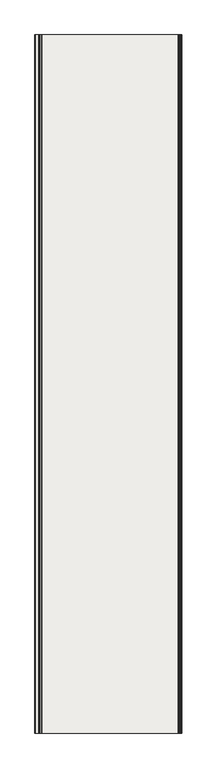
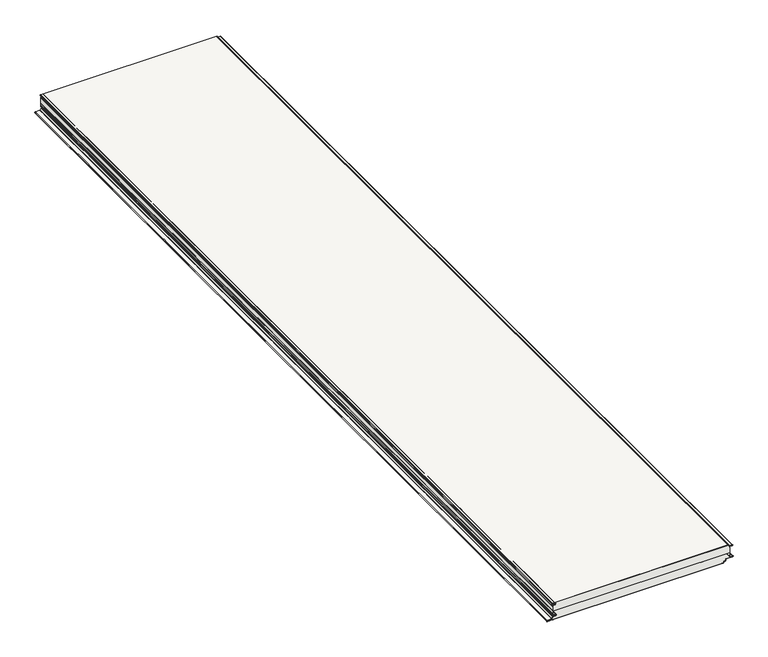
"""IFC4 building model written with IfcOpenShell, lengths in millimetres: covering geometry, Wall sandwich panel SPW-H CORE PIR (single sheet) : -."""

from ifc_helpers import new_model, si_unit, point, frame, frame_2d, origin, place, context, project, spatial, polyline, circle_curve, trimmed, segment, composite_curve, outline, extrude, source, transform, mapped, element, save
from ifc_brep_helpers import plane_surface, cylinder_surface, revolved_surface, advanced_brep


def covering_51063ac3(model_context):
    return source(origin(), model_context, "Body", "SolidModel", [
        extrude(outline(composite_curve([segment(polyline([(-15.1088808, -1033.0523342), (-14.5423642, -1022.2421915)]), True, "CONTINUOUS"), segment(trimmed(circle_curve(frame_2d((-9.549216, -1022.5038626)), 5.0), [point((-14.5423642, -1022.2421915))], [point((-4.5522622, -1022.3293564))], False, "CARTESIAN"), True, "CONTINUOUS"), segment(polyline([(-4.5522622, -1022.3293564), (-4.0495702, -1036.7238513)]), True, "CONTINUOUS"), segment(trimmed(circle_curve(frame_2d((-2.5266447, -1036.6173526)), 1.5266447), [point((-4.0495702, -1036.7238513))], [point((-1.0, -1036.6173526))], True, "CARTESIAN"), True, "CONTINUOUS"), segment(polyline([(-1.0, -1036.6173526), (-1.0, -1035.0), (0.0, -1035.0), (0.0, -1036.6173526)]), True, "CONTINUOUS"), segment(trimmed(circle_curve(frame_2d((-2.5266447, -1036.6173526)), 2.5266447), [point((0.0, -1036.6173526))], [point((-5.0484281, -1036.7740115))], False, "CARTESIAN"), True, "CONTINUOUS"), segment(polyline([(-5.0484281, -1036.7740115), (-5.551653, -1022.3642576)]), True, "CONTINUOUS"), segment(trimmed(circle_curve(frame_2d((-9.549216, -1022.5038626)), 4.0), [point((-5.551653, -1022.3642576))], [point((-13.5437346, -1022.2945257))], True, "CARTESIAN"), True, "CONTINUOUS"), segment(polyline([(-13.5437346, -1022.2945257), (-14.1102512, -1033.1046684)]), True, "CONTINUOUS"), segment(trimmed(circle_curve(frame_2d((-16.1075105, -1033.0)), 2.0), [point((-14.1102512, -1033.1046684))], [point((-16.1075105, -1035.0))], False, "CARTESIAN"), True, "CONTINUOUS"), segment(polyline([(-16.1075105, -1035.0), (-18.1075105, -1035.0), (-18.1075105, -1034.0), (-16.1075105, -1034.0)]), True, "CONTINUOUS"), segment(trimmed(circle_curve(frame_2d((-16.1075105, -1033.0)), 1.0), [point((-16.1075105, -1034.0))], [point((-15.1088808, -1033.0523342))], True, "CARTESIAN"), True, "CONTINUOUS")], self_intersect=False)), frame((0.0, -5000.0, 0.0), z_axis=(0.0, 1.0, 0.0), x_axis=(0.0, 0.0, 1.0)), (0.0, 0.0, 1.0), 5000.0),
        advanced_brep(
        [(-1030.5824878, -5000.0, -82.0150874), (-1019.3324878, -5000.0, -81.9992045), (-1019.0709825, -5000.0, -72.0060522), (-1033.2742211, -5000.0, -71.2619406), (-1034.0, -5000.0, -70.4971426), (-1034.0, -5000.0, -61.4971426), (-1035.0, -5000.0, -61.4971426), (-1035.0, -5000.0, -70.4971426), (-1033.3265396, -5000.0, -72.260571), (-1019.123301, -5000.0, -73.0046827), (-1019.3331636, -5000.0, -80.9992044), (-1030.6396582, -5000.0, -81.0151671), (-1032.7899391, -5000.0, -82.27871), (-1038.1496634, -5000.0, -89.933474), (-1040.1975249, -5000.0, -90.9995686), (-1063.4143745, -5000.0, -90.9999738), (-1063.414296, -5000.0, -100.0), (-1035.0, -5000.0, -100.0), (-1035.0, -5000.0, -99.0), (-1063.414296, -5000.0, -99.0), (-1063.4143571, -5000.0, -92.0), (-1040.1975075, -5000.0, -91.9995686), (-1037.3305014, -5000.0, -90.5070361), (-1031.9707771, -5000.0, -82.8522722), (-1030.5824878, 0.0, -82.0150874), (-1031.9707771, 0.0, -82.8522722), (-1037.3305014, 0.0, -90.5070361), (-1040.1975075, 0.0, -91.9995686), (-1063.4143571, 0.0, -91.9999738), (-1063.414296, 0.0, -99.0), (-1035.0, 0.0, -99.0), (-1035.0, 0.0, -100.0), (-1063.414296, 0.0, -100.0), (-1063.4143745, 0.0, -91.0), (-1040.1975249, 0.0, -90.9995686), (-1038.1496634, 0.0, -89.933474), (-1032.7899391, 0.0, -82.27871), (-1030.6396582, 0.0, -81.0151671), (-1019.3331636, 0.0, -80.9992044), (-1019.123301, 0.0, -73.0046827), (-1033.3265396, 0.0, -72.260571), (-1035.0, 0.0, -70.4971426), (-1035.0, 0.0, -61.4971426), (-1034.0, 0.0, -61.4971426), (-1034.0, 0.0, -70.4971426), (-1033.2742211, 0.0, -71.2619406), (-1019.0709825, 0.0, -72.0060522), (-1019.3324878, 0.0, -81.9992045)],
        [
            (0, 1),
            (1, 2, circle_curve(frame((-1019.3325751, -5000.0, -76.9992045), z_axis=(0.0, -1.0, 0.0), x_axis=(1.0, 0.0, 0.0)), 5.0)),
            (2, 3),
            (3, 4, circle_curve(frame((-1033.2341531, -5000.0, -70.4971426), z_axis=(0.0, 1.0, 0.0), x_axis=(1.0, 0.0, 0.0)), 0.7658469)),
            (4, 5),
            (5, 6),
            (6, 7),
            (7, 8, circle_curve(frame((-1033.2341531, -5000.0, -70.4971426), z_axis=(0.0, -1.0, 0.0), x_axis=(1.0, 0.0, 0.0)), 1.7658469)),
            (8, 9),
            (9, 10, circle_curve(frame((-1019.3325751, -5000.0, -76.9992045), z_axis=(0.0, 1.0, 0.0), x_axis=(1.0, 0.0, 0.0)), 4.0)),
            (10, 11),
            (11, 12, circle_curve(frame((-1030.3324529, -5000.0, -83.9993964), z_axis=(0.0, -1.0, 0.0), x_axis=(1.0, 0.0, 0.0)), 3.0)),
            (12, 13),
            (13, 14, circle_curve(frame((-1040.1975686, -5000.0, -88.4995686), z_axis=(0.0, 1.0, 0.0), x_axis=(1.0, 0.0, 0.0)), 2.5)),
            (14, 15),
            (15, 16, circle_curve(frame((-1063.414296, -5000.0, -95.5), z_axis=(0.0, -1.0, 0.0), x_axis=(1.0, 0.0, 0.0)), 4.5)),
            (16, 17),
            (17, 18),
            (18, 19),
            (19, 20, circle_curve(frame((-1063.414296, -5000.0, -95.5), z_axis=(0.0, 1.0, 0.0), x_axis=(1.0, 0.0, 0.0)), 3.5)),
            (20, 21),
            (21, 22, circle_curve(frame((-1040.1975686, -5000.0, -88.4995686), z_axis=(0.0, -1.0, 0.0), x_axis=(1.0, 0.0, 0.0)), 3.5)),
            (22, 23),
            (23, 0, circle_curve(frame((-1030.3324529, -5000.0, -83.9993964), z_axis=(0.0, 1.0, 0.0), x_axis=(1.0, 0.0, 0.0)), 2.0)),
            (24, 25, circle_curve(frame((-1030.3324529, 0.0, -83.9993964), z_axis=(0.0, -1.0, 0.0), x_axis=(1.0, 0.0, 0.0)), 2.0)),
            (25, 26),
            (26, 27, circle_curve(frame((-1040.1975686, 0.0, -88.4995686), z_axis=(0.0, 1.0, 0.0), x_axis=(1.0, 0.0, 0.0)), 3.5)),
            (27, 28),
            (28, 29, circle_curve(frame((-1063.414296, 0.0, -95.5), z_axis=(0.0, -1.0, 0.0), x_axis=(1.0, 0.0, 0.0)), 3.5)),
            (29, 30),
            (30, 31),
            (31, 32),
            (32, 33, circle_curve(frame((-1063.414296, 0.0, -95.5), z_axis=(0.0, 1.0, 0.0), x_axis=(1.0, 0.0, 0.0)), 4.5)),
            (33, 34),
            (34, 35, circle_curve(frame((-1040.1975686, 0.0, -88.4995686), z_axis=(0.0, -1.0, 0.0), x_axis=(1.0, 0.0, 0.0)), 2.5)),
            (35, 36),
            (36, 37, circle_curve(frame((-1030.3324529, 0.0, -83.9993964), z_axis=(0.0, 1.0, 0.0), x_axis=(1.0, 0.0, 0.0)), 3.0)),
            (37, 38),
            (38, 39, circle_curve(frame((-1019.3325751, 0.0, -76.9992045), z_axis=(0.0, -1.0, 0.0), x_axis=(1.0, 0.0, 0.0)), 4.0)),
            (39, 40),
            (40, 41, circle_curve(frame((-1033.2341531, 0.0, -70.4971426), z_axis=(0.0, 1.0, 0.0), x_axis=(1.0, 0.0, 0.0)), 1.7658469)),
            (41, 42),
            (42, 43),
            (43, 44),
            (44, 45, circle_curve(frame((-1033.2341531, 0.0, -70.4971426), z_axis=(0.0, -1.0, 0.0), x_axis=(1.0, 0.0, 0.0)), 0.7658469)),
            (45, 46),
            (46, 47, circle_curve(frame((-1019.3325751, 0.0, -76.9992045), z_axis=(0.0, 1.0, 0.0), x_axis=(1.0, 0.0, 0.0)), 5.0)),
            (47, 24),
            (0, 24),
            (47, 1),
            (46, 2),
            (45, 3),
            (44, 4),
            (43, 5),
            (42, 6),
            (16, 32),
            (31, 17),
            (30, 18),
            (29, 19),
            (41, 7),
            (40, 8),
            (39, 9),
            (38, 10),
            (37, 11),
            (36, 12),
            (35, 13),
            (34, 14),
            (33, 15),
            (20, 28),
            (27, 21),
            (26, 22),
            (25, 23),
        ],
        [
            plane_surface(frame((-1035.0, -5000.0, -100.0), z_axis=(0.0, -1.0, 0.0), x_axis=(0.0, 0.0, -1.0))),
            plane_surface(frame((-1035.0, 0.0, -100.0), z_axis=(0.0, 1.0, 0.0), x_axis=(0.0, 0.0, -1.0))),
            plane_surface(frame((-1030.5824878, -5000.0, -82.0150874), z_axis=(0.001411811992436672, 0.0, -0.9999990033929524), x_axis=(0.0, 1.0, 0.0))),
            cylinder_surface(frame((-1019.3325751, -5000.0, -76.9992045), z_axis=(0.0, -1.0, 0.0), x_axis=(1.0, 0.0, 0.0)), 5.0),
            plane_surface(frame((-1019.0709825, -5000.0, -72.0060522), z_axis=(0.05231852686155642, 0.0, 0.998630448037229), x_axis=(0.0, 1.0, 0.0))),
            revolved_surface(polyline([(-1032.4683062, 0.0, -70.4971426), (-1032.4683062, -5000.0, -70.4971426)]), (-1033.2341531, -5000.0, -70.4971426), (0.0, 1.0, 0.0)),
            plane_surface(frame((-1034.0, -5000.0, -70.4971426), z_axis=(1.0, 0.0, 0.0), x_axis=(0.0, 1.0, 0.0))),
            plane_surface(frame((-1034.0, -5000.0, -61.4971426), z_axis=(0.0, 0.0, 1.0), x_axis=(0.0, 1.0, 0.0))),
            plane_surface(frame((-1063.414296, -5000.0, -100.0), z_axis=(0.0, 0.0, -1.0), x_axis=(0.0, 1.0, 0.0))),
            plane_surface(frame((-1035.0, -5000.0, -100.0), z_axis=(1.0, 0.0, 0.0), x_axis=(0.0, 1.0, 0.0))),
            plane_surface(frame((-1035.0, -5000.0, -99.0), z_axis=(0.0, 0.0, 1.0), x_axis=(0.0, 1.0, 0.0))),
            plane_surface(frame((-1035.0, -5000.0, -61.4971426), z_axis=(-1.0, 0.0, 0.0), x_axis=(0.0, 1.0, 0.0))),
            cylinder_surface(frame((-1033.2341531, -5000.0, -70.4971426), z_axis=(0.0, -1.0, 0.0), x_axis=(1.0, 0.0, 0.0)), 1.7658469),
            plane_surface(frame((-1033.3265396, -5000.0, -72.260571), z_axis=(-0.05231852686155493, 0.0, -0.998630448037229), x_axis=(0.0, 1.0, 0.0))),
            revolved_surface(polyline([(-1015.3325751, 0.0, -76.9992045), (-1015.3325751, -5000.0, -76.9992045)]), (-1019.3325751, -5000.0, -76.9992045), (0.0, 1.0, 0.0)),
            plane_surface(frame((-1019.3331636, -5000.0, -80.9992044), z_axis=(-0.0014118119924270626, 0.0, 0.9999990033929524), x_axis=(0.0, 1.0, 0.0))),
            cylinder_surface(frame((-1030.3324529, -5000.0, -83.9993964), z_axis=(0.0, -1.0, 0.0), x_axis=(1.0, 0.0, 0.0)), 3.0),
            plane_surface(frame((-1032.7899391, -5000.0, -82.27871), z_axis=(-0.8191620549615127, 0.0, 0.573562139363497), x_axis=(0.0, 1.0, 0.0))),
            revolved_surface(polyline([(-1037.6975686, 0.0, -88.4995686), (-1037.6975686, -5000.0, -88.4995686)]), (-1040.1975686, -5000.0, -88.4995686), (0.0, 1.0, 0.0)),
            plane_surface(frame((-1040.1975249, -5000.0, -90.9995686), z_axis=(-1.745329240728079e-05, 0.0, 0.9999999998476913), x_axis=(0.0, 1.0, 0.0))),
            plane_surface(frame((-1063.4143571, -5000.0, -91.9999738), z_axis=(1.7453292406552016e-05, 0.0, -0.9999999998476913), x_axis=(0.0, 1.0, 0.0))),
            cylinder_surface(frame((-1040.1975686, -5000.0, -88.4995686), z_axis=(0.0, -1.0, 0.0), x_axis=(1.0, 0.0, 0.0)), 3.5),
            plane_surface(frame((-1037.3305014, -5000.0, -90.5070361), z_axis=(0.8191620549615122, 0.0, -0.5735621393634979), x_axis=(0.0, 1.0, 0.0))),
            revolved_surface(polyline([(-1028.3324529, 0.0, -83.9993964), (-1028.3324529, -5000.0, -83.9993964)]), (-1030.3324529, -5000.0, -83.9993964), (0.0, 1.0, 0.0)),
            cylinder_surface(frame((-1063.414296, -5000.0, -95.5), z_axis=(0.0, -1.0, 0.0), x_axis=(1.0, 0.0, 0.0)), 4.5),
            revolved_surface(polyline([(-1059.914296, 0.0, -95.5), (-1059.914296, -5000.0, -95.5)]), (-1063.414296, -5000.0, -95.5), (0.0, 1.0, 0.0)),
        ],
        [
            (0, [[1, 2, 3, 4, 5, 6, 7, 8, 9, 10, 11, 12, 13, 14, 15, 16, 17, 18, 19, 20, 21, 22, 23, 24]]),
            (1, [[25, 26, 27, 28, 29, 30, 31, 32, 33, 34, 35, 36, 37, 38, 39, 40, 41, 42, 43, 44, 45, 46, 47, 48]]),
            (2, [[-1, 49, -48, 50]]),
            (3, [[-2, -50, -47, 51]]),
            (4, [[-3, -51, -46, 52]]),
            (5, [[-4, -52, -45, 53]]),
            (6, [[-5, -53, -44, 54]]),
            (7, [[-6, -54, -43, 55]]),
            (8, [[-17, 56, -32, 57]]),
            (9, [[-18, -57, -31, 58]]),
            (10, [[-19, -58, -30, 59]]),
            (11, [[-7, -55, -42, 60]]),
            (12, [[-8, -60, -41, 61]]),
            (13, [[-9, -61, -40, 62]]),
            (14, [[-10, -62, -39, 63]]),
            (15, [[-11, -63, -38, 64]]),
            (16, [[-12, -64, -37, 65]]),
            (17, [[-13, -65, -36, 66]]),
            (18, [[-14, -66, -35, 67]]),
            (19, [[-15, -67, -34, 68]]),
            (20, [[-21, 69, -28, 70]]),
            (21, [[-22, -70, -27, 71]]),
            (22, [[-23, -71, -26, 72]]),
            (23, [[-24, -72, -25, -49]]),
            (24, [[-16, -68, -33, -56]]),
            (25, [[-20, -59, -29, -69]]),
        ],
    ),
        extrude(outline(composite_curve([segment(polyline([(-1.0, -1035.0), (-1.0, -42.1186621)]), True, "CONTINUOUS"), segment(trimmed(circle_curve(frame_2d((-2.5, -42.1186621)), 1.5), [point((-1.0, -42.1186621))], [point((-2.5, -40.6186621))], True, "CARTESIAN"), True, "CONTINUOUS"), segment(polyline([(-2.5, -40.6186621), (-4.3, -40.6186621)]), True, "CONTINUOUS"), segment(trimmed(circle_curve(frame_2d((-4.3, -38.1186621)), 2.5), [point((-4.3, -40.6186621))], [point((-6.7984771, -38.2059108))], False, "CARTESIAN"), True, "CONTINUOUS"), segment(polyline([(-6.7984771, -38.2059108), (-7.363951, -22.012857)]), True, "CONTINUOUS"), segment(trimmed(circle_curve(frame_2d((-9.3627326, -22.082656)), 2.0), [point((-7.363951, -22.012857))], [point((-11.3599917, -21.9779841))], True, "CARTESIAN"), True, "CONTINUOUS"), segment(polyline([(-11.3599917, -21.9779841), (-11.921027, -32.6831758)]), True, "CONTINUOUS"), segment(trimmed(circle_curve(frame_2d((-15.4162304, -32.5)), 3.5), [point((-11.921027, -32.6831758))], [point((-15.4162304, -36.0))], False, "CARTESIAN"), True, "CONTINUOUS"), segment(polyline([(-15.4162304, -36.0), (-18.1062304, -36.0), (-18.1062304, -35.0), (-15.4162304, -35.0)]), True, "CONTINUOUS"), segment(trimmed(circle_curve(frame_2d((-15.4162304, -32.5)), 2.5), [point((-15.4162304, -35.0))], [point((-12.9196566, -32.6308399))], True, "CARTESIAN"), True, "CONTINUOUS"), segment(polyline([(-12.9196566, -32.6308399), (-12.3586212, -21.9256482)]), True, "CONTINUOUS"), segment(trimmed(circle_curve(frame_2d((-9.3627326, -22.082656)), 3.0), [point((-12.3586212, -21.9256482))], [point((-6.3645601, -21.9779575))], False, "CARTESIAN"), True, "CONTINUOUS"), segment(polyline([(-6.3645601, -21.9779575), (-5.7990862, -38.1710114)]), True, "CONTINUOUS"), segment(trimmed(circle_curve(frame_2d((-4.3, -38.1186621)), 1.5), [point((-5.7990862, -38.1710114))], [point((-4.3, -39.6186621))], True, "CARTESIAN"), True, "CONTINUOUS"), segment(polyline([(-4.3, -39.6186621), (-2.5, -39.6186621)]), True, "CONTINUOUS"), segment(trimmed(circle_curve(frame_2d((-2.5, -42.1186621)), 2.5), [point((-2.5, -39.6186621))], [point((0.0, -42.1186621))], False, "CARTESIAN"), True, "CONTINUOUS"), segment(polyline([(0.0, -42.1186621), (0.0, -1035.0), (-1.0, -1035.0)]), True, "CONTINUOUS")], self_intersect=False)), frame((0.0, -5000.0, 0.0), z_axis=(0.0, 1.0, 0.0), x_axis=(0.0, 0.0, 1.0)), (0.0, 0.0, 1.0), 5000.0),
        extrude(outline(composite_curve([segment(polyline([(-99.0, -1035.0), (-100.0, -1035.0), (-100.0, -73.4477183)]), True, "CONTINUOUS"), segment(trimmed(circle_curve(frame_2d((-95.0, -73.4477183)), 5.0), [point((-100.0, -73.4477183))], [point((-95.0, -68.4477183))], False, "CARTESIAN"), True, "CONTINUOUS"), segment(polyline([(-95.0, -68.4477183), (-92.008232, -68.4477183)]), True, "CONTINUOUS"), segment(trimmed(circle_curve(frame_2d((-92.008232, -66.4315256)), 2.0161927), [point((-92.008232, -68.4477183))], [point((-89.9920393, -66.4315256))], True, "CARTESIAN"), True, "CONTINUOUS"), segment(polyline([(-89.9920393, -66.4315256), (-89.9920393, -60.9141788)]), True, "CONTINUOUS"), segment(trimmed(circle_curve(frame_2d((-87.4959919, -60.9141788)), 2.4960474), [point((-89.9920393, -60.9141788))], [point((-87.9326372, -58.4566204))], False, "CARTESIAN"), True, "CONTINUOUS"), segment(polyline([(-87.9326372, -58.4566204), (-81.6533464, -57.3460478)]), True, "CONTINUOUS"), segment(trimmed(circle_curve(frame_2d((-82.0004127, -55.3763918)), 2.0), [point((-81.6533464, -57.3460478))], [point((-80.0004127, -55.3763918))], True, "CARTESIAN"), True, "CONTINUOUS"), segment(polyline([(-80.0004127, -55.3763918), (-80.0004127, -18.8763918)]), True, "CONTINUOUS"), segment(trimmed(circle_curve(frame_2d((-77.0004127, -18.8763918)), 3.0), [point((-80.0004127, -18.8763918))], [point((-74.0045241, -18.7193839))], False, "CARTESIAN"), True, "CONTINUOUS"), segment(polyline([(-74.0045241, -18.7193839), (-73.2754556, -32.6308399)]), True, "CONTINUOUS"), segment(trimmed(circle_curve(frame_2d((-70.7788817, -32.5)), 2.5), [point((-73.2754556, -32.6308399))], [point((-70.7788817, -35.0))], True, "CARTESIAN"), True, "CONTINUOUS"), segment(polyline([(-70.7788817, -35.0), (-61.4988817, -35.0), (-61.4988817, -36.0), (-70.7788817, -36.0)]), True, "CONTINUOUS"), segment(trimmed(circle_curve(frame_2d((-70.7788817, -32.5)), 3.5), [point((-70.7788817, -36.0))], [point((-74.2740851, -32.6831758))], False, "CARTESIAN"), True, "CONTINUOUS"), segment(polyline([(-74.2740851, -32.6831758), (-75.0031536, -18.7717199)]), True, "CONTINUOUS"), segment(trimmed(circle_curve(frame_2d((-77.0004127, -18.8763918)), 2.0), [point((-75.0031536, -18.7717199))], [point((-79.0004127, -18.8763918))], True, "CARTESIAN"), True, "CONTINUOUS"), segment(polyline([(-79.0004127, -18.8763918), (-79.0004127, -55.3763918)]), True, "CONTINUOUS"), segment(trimmed(circle_curve(frame_2d((-82.0004127, -55.3763918)), 3.0), [point((-79.0004127, -55.3763918))], [point((-81.4794682, -58.330815))], False, "CARTESIAN"), True, "CONTINUOUS"), segment(polyline([(-81.4794682, -58.330815), (-87.7580406, -59.4412605)]), True, "CONTINUOUS"), segment(trimmed(circle_curve(frame_2d((-87.4959919, -60.9141788)), 1.4960474), [point((-87.7580406, -59.4412605))], [point((-88.9920393, -60.9141788))], True, "CARTESIAN"), True, "CONTINUOUS"), segment(polyline([(-88.9920393, -60.9141788), (-88.9920393, -66.4315256)]), True, "CONTINUOUS"), segment(trimmed(circle_curve(frame_2d((-92.008232, -66.4315256)), 3.0161927), [point((-88.9920393, -66.4315256))], [point((-92.008232, -69.4477183))], False, "CARTESIAN"), True, "CONTINUOUS"), segment(polyline([(-92.008232, -69.4477183), (-95.0, -69.4477183)]), True, "CONTINUOUS"), segment(trimmed(circle_curve(frame_2d((-95.0, -73.4477183)), 4.0), [point((-95.0, -69.4477183))], [point((-99.0, -73.4477183))], True, "CARTESIAN"), True, "CONTINUOUS"), segment(polyline([(-99.0, -73.4477183), (-99.0, -1035.0)]), True, "CONTINUOUS")], self_intersect=False)), frame((0.0, -5000.0, 0.0), z_axis=(0.0, 1.0, 0.0), x_axis=(0.0, 0.0, 1.0)), (0.0, 0.0, 1.0), 5000.0),
        advanced_brep(
        [(-1063.414296, -5000.0, -99.0), (-1035.0, -5000.0, -99.0), (-73.4477183, -5000.0, -99.0), (-69.4477183, -5000.0, -95.0), (-69.4477183, -5000.0, -92.0078193), (-66.4315256, -5000.0, -88.9916266), (-60.9141788, -5000.0, -88.9916266), (-59.4412605, -5000.0, -87.7576279), (-58.330815, -5000.0, -81.4790555), (-55.3763918, -5000.0, -79.0), (-18.8763918, -5000.0, -79.0), (-18.7717199, -5000.0, -75.0027409), (-32.6831758, -5000.0, -74.2736724), (-36.0, -5000.0, -70.778469), (-36.0, -5000.0, -50.0), (-1034.0, -5000.0, -50.0), (-1034.0, -5000.0, -70.4971426), (-1033.2742211, -5000.0, -71.2619406), (-1019.0709825, -5000.0, -72.0060522), (-1019.3324878, -5000.0, -81.9992045), (-1030.3324878, -5000.0, -81.9993964), (-1031.9707771, -5000.0, -82.8522722), (-1037.3305014, -5000.0, -90.5070361), (-1040.1975075, -5000.0, -91.9995686), (-1063.4143571, -5000.0, -91.9999738), (-1035.0, 0.0, -99.0), (-1063.414296, 0.0, -99.0), (-1063.4143571, 0.0, -92.0), (-1040.1975075, 0.0, -91.9995686), (-1037.3305014, 0.0, -90.5070361), (-1031.9707771, 0.0, -82.8522722), (-1030.3324878, 0.0, -81.9993964), (-1019.3324878, 0.0, -81.9992045), (-1019.0709825, 0.0, -72.0060522), (-1033.2742211, 0.0, -71.2619406), (-1034.0, 0.0, -70.4971426), (-1034.0, 0.0, -50.0), (-36.0, 0.0, -50.0), (-36.0, 0.0, -70.778469), (-32.6831758, 0.0, -74.2736724), (-18.7717199, 0.0, -75.0027409), (-18.8763918, 0.0, -79.0), (-55.3763918, 0.0, -79.0), (-58.330815, 0.0, -81.4790555), (-59.4412605, 0.0, -87.7576279), (-60.9141788, 0.0, -88.9916266), (-66.4315256, 0.0, -88.9916266), (-69.4477183, 0.0, -92.0078193), (-69.4477183, 0.0, -95.0), (-73.4477183, 0.0, -99.0)],
        [
            (0, 1),
            (1, 2),
            (2, 3, circle_curve(frame((-73.4477183, -5000.0, -95.0), z_axis=(0.0, -1.0, 0.0), x_axis=(-1.0, 0.0, 0.0)), 4.0)),
            (3, 4),
            (4, 5, circle_curve(frame((-66.4315256, -5000.0, -92.0078193), z_axis=(0.0, 1.0, 0.0), x_axis=(-1.0, 0.0, 0.0)), 3.0161927)),
            (5, 6),
            (6, 7, circle_curve(frame((-60.9141788, -5000.0, -87.4955792), z_axis=(0.0, -1.0, 0.0), x_axis=(-1.0, 0.0, 0.0)), 1.4960474)),
            (7, 8),
            (8, 9, circle_curve(frame((-55.3763918, -5000.0, -82.0), z_axis=(0.0, 1.0, 0.0), x_axis=(-1.0, 0.0, 0.0)), 3.0)),
            (9, 10),
            (10, 11, circle_curve(frame((-18.8763918, -5000.0, -77.0), z_axis=(0.0, -1.0, 0.0), x_axis=(-1.0, 0.0, 0.0)), 2.0)),
            (11, 12),
            (12, 13, circle_curve(frame((-32.5, -5000.0, -70.778469), z_axis=(0.0, 1.0, 0.0), x_axis=(-1.0, 0.0, 0.0)), 3.5)),
            (13, 14),
            (14, 15),
            (15, 16),
            (16, 17, circle_curve(frame((-1033.2341531, -5000.0, -70.4971426), z_axis=(0.0, -1.0, 0.0), x_axis=(-1.0, 0.0, 0.0)), 0.7658469)),
            (17, 18),
            (18, 19, circle_curve(frame((-1019.3325751, -5000.0, -76.9992045), z_axis=(0.0, 1.0, 0.0), x_axis=(-1.0, 0.0, 0.0)), 5.0)),
            (19, 20),
            (20, 21, circle_curve(frame((-1030.3324529, -5000.0, -83.9993964), z_axis=(0.0, -1.0, 0.0), x_axis=(-1.0, 0.0, 0.0)), 2.0)),
            (21, 22),
            (22, 23, circle_curve(frame((-1040.1975686, -5000.0, -88.4995686), z_axis=(0.0, 1.0, 0.0), x_axis=(-1.0, 0.0, 0.0)), 3.5)),
            (23, 24),
            (24, 0, circle_curve(frame((-1063.414296, -5000.0, -95.5), z_axis=(0.0, -1.0, 0.0), x_axis=(-1.0, 0.0, 0.0)), 3.5)),
            (25, 26),
            (26, 27, circle_curve(frame((-1063.414296, 0.0, -95.5), z_axis=(0.0, 1.0, 0.0), x_axis=(-1.0, 0.0, 0.0)), 3.5)),
            (27, 28),
            (28, 29, circle_curve(frame((-1040.1975686, 0.0, -88.4995686), z_axis=(0.0, -1.0, 0.0), x_axis=(-1.0, 0.0, 0.0)), 3.5)),
            (29, 30),
            (30, 31, circle_curve(frame((-1030.3324529, 0.0, -83.9993964), z_axis=(0.0, 1.0, 0.0), x_axis=(-1.0, 0.0, 0.0)), 2.0)),
            (31, 32),
            (32, 33, circle_curve(frame((-1019.3325751, 0.0, -76.9992045), z_axis=(0.0, -1.0, 0.0), x_axis=(-1.0, 0.0, 0.0)), 5.0)),
            (33, 34),
            (34, 35, circle_curve(frame((-1033.2341531, 0.0, -70.4971426), z_axis=(0.0, 1.0, 0.0), x_axis=(-1.0, 0.0, 0.0)), 0.7658469)),
            (35, 36),
            (36, 37),
            (37, 38),
            (38, 39, circle_curve(frame((-32.5, 0.0, -70.778469), z_axis=(0.0, -1.0, 0.0), x_axis=(-1.0, 0.0, 0.0)), 3.5)),
            (39, 40),
            (40, 41, circle_curve(frame((-18.8763918, 0.0, -77.0), z_axis=(0.0, 1.0, 0.0), x_axis=(-1.0, 0.0, 0.0)), 2.0)),
            (41, 42),
            (42, 43, circle_curve(frame((-55.3763918, 0.0, -82.0), z_axis=(0.0, -1.0, 0.0), x_axis=(-1.0, 0.0, 0.0)), 3.0)),
            (43, 44),
            (44, 45, circle_curve(frame((-60.9141788, 0.0, -87.4955792), z_axis=(0.0, 1.0, 0.0), x_axis=(-1.0, 0.0, 0.0)), 1.4960474)),
            (45, 46),
            (46, 47, circle_curve(frame((-66.4315256, 0.0, -92.0078193), z_axis=(0.0, -1.0, 0.0), x_axis=(-1.0, 0.0, 0.0)), 3.0161927)),
            (47, 48),
            (48, 49, circle_curve(frame((-73.4477183, 0.0, -95.0), z_axis=(0.0, 1.0, 0.0), x_axis=(-1.0, 0.0, 0.0)), 4.0)),
            (49, 25),
            (36, 15),
            (14, 37),
            (0, 26),
            (49, 2),
            (23, 28),
            (27, 24),
            (22, 29),
            (21, 30),
            (20, 31),
            (19, 32),
            (18, 33),
            (17, 34),
            (16, 35),
            (13, 38),
            (12, 39),
            (11, 40),
            (10, 41),
            (9, 42),
            (8, 43),
            (7, 44),
            (6, 45),
            (5, 46),
            (4, 47),
            (3, 48),
        ],
        [
            plane_surface(frame((-1095.0, -5000.0, -50.0), z_axis=(0.0, -1.0, 0.0), x_axis=(-1.0, 0.0, 0.0))),
            plane_surface(frame((-1095.0, 0.0, -50.0), z_axis=(0.0, 1.0, 0.0), x_axis=(1.0, 0.0, 0.0))),
            plane_surface(frame((15.0, -5000.0, -50.0), z_axis=(0.0, 0.0, 1.0), x_axis=(0.0, 1.0, 0.0))),
            plane_surface(frame((-1095.0, -5000.0, -99.0), z_axis=(0.0, 0.0, -1.0), x_axis=(0.0, 1.0, 0.0))),
            plane_surface(frame((-1063.4143571, -5000.0, -91.9999738), z_axis=(-1.7453294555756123e-05, 0.0, 0.9999999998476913), x_axis=(0.0, 1.0, 0.0))),
            revolved_surface(polyline([(-1043.6975686, -5000.0, -88.4995686), (-1043.6975686, 0.0, -88.4995686)]), (-1040.1975686, -5000.0, -88.4995686), (0.0, -1.0, 0.0)),
            plane_surface(frame((-1037.3305014, -5000.0, -90.5070361), z_axis=(-0.8191620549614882, 0.0, 0.5735621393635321), x_axis=(0.0, 1.0, 0.0))),
            cylinder_surface(frame((-1030.3324529, -5000.0, -83.9993964), z_axis=(0.0, 1.0, 0.0), x_axis=(-1.0, 0.0, 0.0)), 2.0),
            plane_surface(frame((-1030.3324878, -5000.0, -81.9993964), z_axis=(-1.7453292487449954e-05, 0.0, 0.9999999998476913), x_axis=(0.0, 1.0, 0.0))),
            revolved_surface(polyline([(-1024.3325751, -5000.0, -76.9992045), (-1024.3325751, 0.0, -76.9992045)]), (-1019.3325751, -5000.0, -76.9992045), (0.0, -1.0, 0.0)),
            plane_surface(frame((-1019.0709825, -5000.0, -72.0060522), z_axis=(-0.052318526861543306, 0.0, -0.9986304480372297), x_axis=(0.0, 1.0, 0.0))),
            cylinder_surface(frame((-1033.2341531, -5000.0, -70.4971426), z_axis=(0.0, 1.0, 0.0), x_axis=(-1.0, 0.0, 0.0)), 0.7658469),
            plane_surface(frame((-1034.0, -5000.0, -70.4971426), z_axis=(-1.0, 0.0, 0.0), x_axis=(0.0, 1.0, 0.0))),
            plane_surface(frame((-36.0, -5000.0, -15.4162304), z_axis=(1.0, 0.0, 0.0), x_axis=(0.0, 1.0, 0.0))),
            revolved_surface(polyline([(-36.0, -5000.0, -70.778469), (-36.0, 0.0, -70.778469)]), (-32.5, -5000.0, -70.778469), (0.0, -1.0, 0.0)),
            plane_surface(frame((-32.6831758, -5000.0, -74.2736724), z_axis=(0.052335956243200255, 0.0, 0.9986295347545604), x_axis=(0.0, 1.0, 0.0))),
            cylinder_surface(frame((-18.8763918, -5000.0, -77.0), z_axis=(0.0, 1.0, 0.0), x_axis=(-1.0, 0.0, 0.0)), 2.0),
            plane_surface(frame((-18.8763918, -5000.0, -79.0), z_axis=(0.0, 0.0, -1.0), x_axis=(0.0, 1.0, 0.0))),
            revolved_surface(polyline([(-58.3763918, -5000.0, -82.0), (-58.3763918, 0.0, -82.0)]), (-55.3763918, -5000.0, -82.0), (0.0, -1.0, 0.0)),
            plane_surface(frame((-58.330815, -5000.0, -81.4790555), z_axis=(0.984717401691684, 0.0, -0.17415980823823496), x_axis=(0.0, 1.0, 0.0))),
            cylinder_surface(frame((-60.9141788, -5000.0, -87.4955792), z_axis=(0.0, 1.0, 0.0), x_axis=(-1.0, 0.0, 0.0)), 1.4960474),
            plane_surface(frame((-60.9141788, -5000.0, -88.9916266), z_axis=(0.0, 0.0, -1.0), x_axis=(0.0, 1.0, 0.0))),
            revolved_surface(polyline([(-69.4477183, -5000.0, -92.0078193), (-69.4477183, 0.0, -92.0078193)]), (-66.4315256, -5000.0, -92.0078193), (0.0, -1.0, 0.0)),
            plane_surface(frame((-69.4477183, -5000.0, -92.0078193), z_axis=(1.0, 0.0, 0.0), x_axis=(0.0, 1.0, 0.0))),
            cylinder_surface(frame((-73.4477183, -5000.0, -95.0), z_axis=(0.0, 1.0, 0.0), x_axis=(-1.0, 0.0, 0.0)), 4.0),
            cylinder_surface(frame((-1063.414296, -5000.0, -95.5), z_axis=(0.0, 1.0, 0.0), x_axis=(-1.0, 0.0, 0.0)), 3.5),
        ],
        [
            (0, [[1, 2, 3, 4, 5, 6, 7, 8, 9, 10, 11, 12, 13, 14, 15, 16, 17, 18, 19, 20, 21, 22, 23, 24, 25]]),
            (1, [[26, 27, 28, 29, 30, 31, 32, 33, 34, 35, 36, 37, 38, 39, 40, 41, 42, 43, 44, 45, 46, 47, 48, 49, 50]]),
            (2, [[51, -15, 52, -37]]),
            (3, [[-1, 53, -26, -50, 54, -2]]),
            (4, [[55, -28, 56, -24]]),
            (5, [[-55, -23, 57, -29]]),
            (6, [[-57, -22, 58, -30]]),
            (7, [[-58, -21, 59, -31]]),
            (8, [[-59, -20, 60, -32]]),
            (9, [[-60, -19, 61, -33]]),
            (10, [[-61, -18, 62, -34]]),
            (11, [[-62, -17, 63, -35]]),
            (12, [[-63, -16, -51, -36]]),
            (13, [[64, -38, -52, -14]]),
            (14, [[-64, -13, 65, -39]]),
            (15, [[-65, -12, 66, -40]]),
            (16, [[-66, -11, 67, -41]]),
            (17, [[-67, -10, 68, -42]]),
            (18, [[-68, -9, 69, -43]]),
            (19, [[-69, -8, 70, -44]]),
            (20, [[-70, -7, 71, -45]]),
            (21, [[-71, -6, 72, -46]]),
            (22, [[-72, -5, 73, -47]]),
            (23, [[-73, -4, 74, -48]]),
            (24, [[-74, -3, -54, -49]]),
            (25, [[-56, -27, -53, -25]]),
        ],
    ),
        advanced_brep(
        [(-1035.0, -5000.0, -1.0), (-1036.6173526, -5000.0, -1.0), (-1036.7238513, -5000.0, -4.0495702), (-1022.3293564, -5000.0, -4.5522622), (-1022.2421915, -5000.0, -14.5423642), (-1033.0523342, -5000.0, -15.1088808), (-1034.0, -5000.0, -16.1075105), (-1034.0, -5000.0, -50.0), (-36.0, -5000.0, -50.0), (-36.0, -5000.0, -15.4162304), (-32.6831758, -5000.0, -11.921027), (-21.9779841, -5000.0, -11.3599917), (-22.012857, -5000.0, -7.363951), (-38.2059108, -5000.0, -6.7984771), (-40.6186621, -5000.0, -4.3), (-40.6186621, -5000.0, -2.5), (-42.1186621, -5000.0, -1.0), (-43.1368714, -5000.0, -1.0), (-1036.6173526, 0.0, -1.0), (-1035.0, 0.0, -1.0), (-43.1368714, 0.0, -1.0), (-42.1186621, 0.0, -1.0), (-40.6186621, 0.0, -2.5), (-40.6186621, 0.0, -4.3), (-38.2059108, 0.0, -6.7984771), (-22.012857, 0.0, -7.363951), (-21.9779841, 0.0, -11.3599917), (-32.6831758, 0.0, -11.921027), (-36.0, 0.0, -15.4162304), (-36.0, 0.0, -50.0), (-1034.0, 0.0, -50.0), (-1034.0, 0.0, -16.1075105), (-1033.0523342, 0.0, -15.1088808), (-1022.2421915, 0.0, -14.5423642), (-1022.3293564, 0.0, -4.5522622), (-1036.7238513, 0.0, -4.0495702)],
        [
            (0, 1),
            (1, 2, circle_curve(frame((-1036.6173526, -5000.0, -2.5266447), z_axis=(0.0, -1.0, 0.0), x_axis=(-1.0, 0.0, 0.0)), 1.5266447)),
            (2, 3),
            (3, 4, circle_curve(frame((-1022.5038626, -5000.0, -9.549216), z_axis=(0.0, 1.0, 0.0), x_axis=(-1.0, 0.0, 0.0)), 5.0)),
            (4, 5),
            (5, 6, circle_curve(frame((-1033.0, -5000.0, -16.1075105), z_axis=(0.0, -1.0, 0.0), x_axis=(-1.0, 0.0, 0.0)), 1.0)),
            (6, 7),
            (7, 8),
            (8, 9),
            (9, 10, circle_curve(frame((-32.5, -5000.0, -15.4162304), z_axis=(0.0, 1.0, 0.0), x_axis=(-1.0, 0.0, 0.0)), 3.5)),
            (10, 11),
            (11, 12, circle_curve(frame((-22.082656, -5000.0, -9.3627326), z_axis=(0.0, -1.0, 0.0), x_axis=(-1.0, 0.0, 0.0)), 2.0)),
            (12, 13),
            (13, 14, circle_curve(frame((-38.1186621, -5000.0, -4.3), z_axis=(0.0, 1.0, 0.0), x_axis=(-1.0, 0.0, 0.0)), 2.5)),
            (14, 15),
            (15, 16, circle_curve(frame((-42.1186621, -5000.0, -2.5), z_axis=(0.0, -1.0, 0.0), x_axis=(-1.0, 0.0, 0.0)), 1.5)),
            (16, 17),
            (17, 0),
            (18, 19),
            (19, 20),
            (20, 21),
            (21, 22, circle_curve(frame((-42.1186621, 0.0, -2.5), z_axis=(0.0, 1.0, 0.0), x_axis=(-1.0, 0.0, 0.0)), 1.5)),
            (22, 23),
            (23, 24, circle_curve(frame((-38.1186621, 0.0, -4.3), z_axis=(0.0, -1.0, 0.0), x_axis=(-1.0, 0.0, 0.0)), 2.5)),
            (24, 25),
            (25, 26, circle_curve(frame((-22.082656, 0.0, -9.3627326), z_axis=(0.0, 1.0, 0.0), x_axis=(-1.0, 0.0, 0.0)), 2.0)),
            (26, 27),
            (27, 28, circle_curve(frame((-32.5, 0.0, -15.4162304), z_axis=(0.0, -1.0, 0.0), x_axis=(-1.0, 0.0, 0.0)), 3.5)),
            (28, 29),
            (29, 30),
            (30, 31),
            (31, 32, circle_curve(frame((-1033.0, 0.0, -16.1075105), z_axis=(0.0, 1.0, 0.0), x_axis=(-1.0, 0.0, 0.0)), 1.0)),
            (32, 33),
            (33, 34, circle_curve(frame((-1022.5038626, 0.0, -9.549216), z_axis=(0.0, -1.0, 0.0), x_axis=(-1.0, 0.0, 0.0)), 5.0)),
            (34, 35),
            (35, 18, circle_curve(frame((-1036.6173526, 0.0, -2.5266447), z_axis=(0.0, 1.0, 0.0), x_axis=(-1.0, 0.0, 0.0)), 1.5266447)),
            (16, 21),
            (18, 1),
            (7, 30),
            (29, 8),
            (6, 31),
            (5, 32),
            (4, 33),
            (3, 34),
            (2, 35),
            (15, 22),
            (14, 23),
            (13, 24),
            (12, 25),
            (11, 26),
            (10, 27),
            (9, 28),
        ],
        [
            plane_surface(frame((-1095.0, -5000.0, -1.0), z_axis=(0.0, -1.0, 0.0), x_axis=(-1.0, 0.0, 0.0))),
            plane_surface(frame((-1095.0, 0.0, -1.0), z_axis=(0.0, 1.0, 0.0), x_axis=(1.0, 0.0, 0.0))),
            plane_surface(frame((-5.0, -5000.0, -1.0), z_axis=(0.0, 0.0, 1.0), x_axis=(0.0, 1.0, 0.0))),
            plane_surface(frame((-1095.0, -5000.0, -50.0), z_axis=(0.0, 0.0, -1.0), x_axis=(0.0, 1.0, 0.0))),
            plane_surface(frame((-1034.0, -5000.0, -70.4971426), z_axis=(-1.0, 0.0, 0.0), x_axis=(0.0, 1.0, 0.0))),
            cylinder_surface(frame((-1033.0, -5000.0, -16.1075105), z_axis=(0.0, 1.0, 0.0), x_axis=(-1.0, 0.0, 0.0)), 1.0),
            plane_surface(frame((-1033.0523342, -5000.0, -15.1088808), z_axis=(-0.05233421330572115, 0.0, 0.998629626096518), x_axis=(0.0, 1.0, 0.0))),
            revolved_surface(polyline([(-1027.5038626, -5000.0, -9.549216), (-1027.5038626, 0.0, -9.549216)]), (-1022.5038626, -5000.0, -9.549216), (0.0, -1.0, 0.0)),
            plane_surface(frame((-1022.3293564, -5000.0, -4.5522622), z_axis=(-0.03490124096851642, 0.0, -0.9993907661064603), x_axis=(0.0, 1.0, 0.0))),
            cylinder_surface(frame((-42.1186621, -5000.0, -2.5), z_axis=(0.0, 1.0, 0.0), x_axis=(-1.0, 0.0, 0.0)), 1.5),
            plane_surface(frame((-40.6186621, -5000.0, -2.5), z_axis=(1.0, 0.0, 0.0), x_axis=(0.0, 1.0, 0.0))),
            revolved_surface(polyline([(-40.6186621, -5000.0, -4.3), (-40.6186621, 0.0, -4.3)]), (-38.1186621, -5000.0, -4.3), (0.0, -1.0, 0.0)),
            plane_surface(frame((-38.2059108, -5000.0, -6.7984771), z_axis=(0.034899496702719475, 0.0, 0.9993908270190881), x_axis=(0.0, 1.0, 0.0))),
            cylinder_surface(frame((-22.082656, -5000.0, -9.3627326), z_axis=(0.0, 1.0, 0.0), x_axis=(-1.0, 0.0, 0.0)), 2.0),
            plane_surface(frame((-21.9779841, -5000.0, -11.3599917), z_axis=(0.05233595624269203, 0.0, -0.9986295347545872), x_axis=(0.0, 1.0, 0.0))),
            revolved_surface(polyline([(-36.0, -5000.0, -15.4162304), (-36.0, 0.0, -15.4162304)]), (-32.5, -5000.0, -15.4162304), (0.0, -1.0, 0.0)),
            plane_surface(frame((-36.0, -5000.0, -15.4162304), z_axis=(1.0, 0.0, 0.0), x_axis=(0.0, 1.0, 0.0))),
            cylinder_surface(frame((-1036.6173526, -5000.0, -2.5266447), z_axis=(0.0, 1.0, 0.0), x_axis=(-1.0, 0.0, 0.0)), 1.5266447),
        ],
        [
            (0, [[1, 2, 3, 4, 5, 6, 7, 8, 9, 10, 11, 12, 13, 14, 15, 16, 17, 18]]),
            (1, [[19, 20, 21, 22, 23, 24, 25, 26, 27, 28, 29, 30, 31, 32, 33, 34, 35, 36]]),
            (2, [[-1, -18, -17, 37, -21, -20, -19, 38]]),
            (3, [[39, -30, 40, -8]]),
            (4, [[41, -31, -39, -7]]),
            (5, [[-41, -6, 42, -32]]),
            (6, [[-42, -5, 43, -33]]),
            (7, [[-43, -4, 44, -34]]),
            (8, [[-44, -3, 45, -35]]),
            (9, [[46, -22, -37, -16]]),
            (10, [[-46, -15, 47, -23]]),
            (11, [[-47, -14, 48, -24]]),
            (12, [[-48, -13, 49, -25]]),
            (13, [[-49, -12, 50, -26]]),
            (14, [[-50, -11, 51, -27]]),
            (15, [[-51, -10, 52, -28]]),
            (16, [[-52, -9, -40, -29]]),
            (17, [[-45, -2, -38, -36]]),
        ],
    ),
    ])


if __name__ == "__main__":
    model = new_model("IFC4")
    model_context = context("Model", 3, world=origin())
    ifc_project = project(units=[si_unit("LENGTHUNIT", "METRE", prefix="MILLI")], contexts=[model_context])
    site = spatial("IfcSite", under=ifc_project)
    building = spatial("IfcBuilding", under=site)
    placement = place(None, origin())
    covering_shape = covering_51063ac3(model_context)
    element("IfcCovering", 1, ObjectType="Wall sandwich panel SPW-H CORE PIR (single sheet) : -", at=placement, inside=building, context=model_context, shape_type="MappedRepresentation", body=[
        mapped(covering_shape, transform((0.0, 0.0, 0.0), x_axis=(1.0, 0.0, 0.0), y_axis=(0.0, 1.0, 0.0), z_axis=(0.0, 0.0, 1.0))),
    ])
    save(model, "model.ifc")
